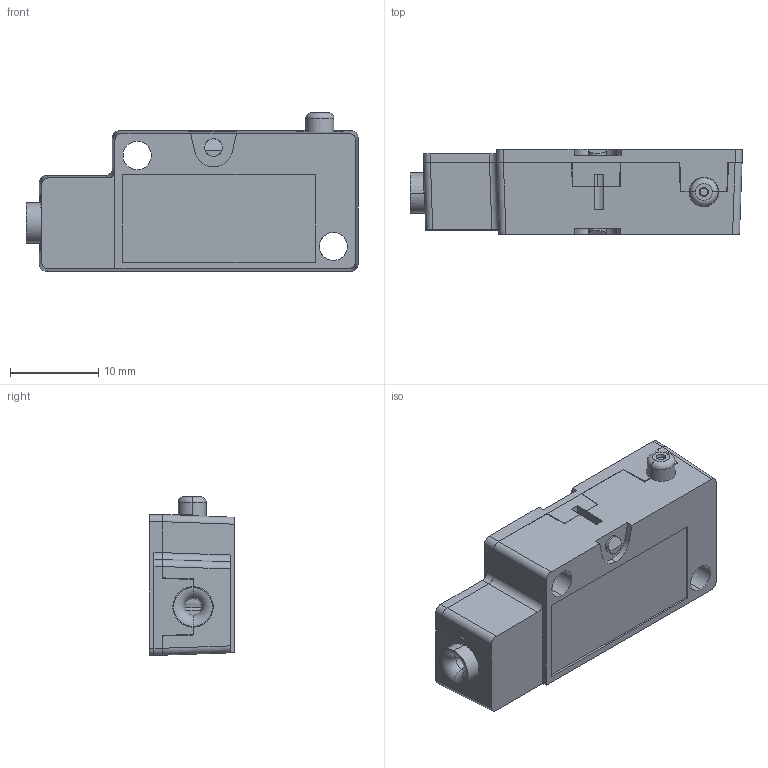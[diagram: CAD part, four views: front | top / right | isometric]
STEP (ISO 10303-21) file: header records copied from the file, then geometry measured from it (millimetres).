
FILE_DESCRIPTION (( 'STEP AP214' ), '1' );
FILE_NAME ('MR386_NoCable.STEP', '2016-04-28T18:39:03', ( '' ), ( '' ), 'SwSTEP 2.0', 'SolidWorks 2016', '' );
FILE_SCHEMA (( 'AUTOMOTIVE_DESIGN' ));
Length unit declared in the file: inch
Products named in the file (1): MR386_NoCable
Bounding box: 37.59 x 9.63 x 17.93 mm (x, y, z)
Volume: 2747.5 mm3; surface area: 4525 mm2
Topology: 3 solids, 3 shells, 579 faces, 1603 edges, 1064 vertices
Faces by surface type: plane 327, bspline 122, cylinder 75, cone 24, torus 23, sphere 8
Entity records: 32324 total; most frequent: CARTESIAN_POINT 10656, ORIENTED_EDGE 3206, DIRECTION 2472, EDGE_CURVE 1603, VERTEX_POINT 1064, VECTOR 1006, LINE 1006, AXIS2_PLACEMENT_3D 733
